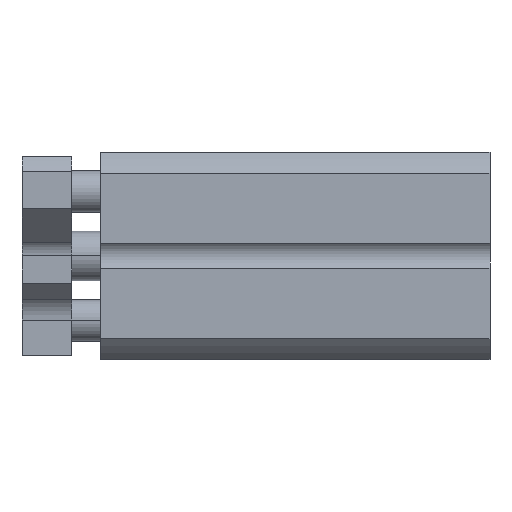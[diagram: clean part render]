
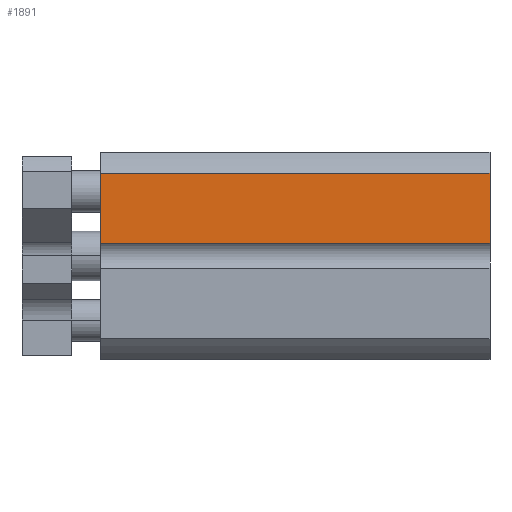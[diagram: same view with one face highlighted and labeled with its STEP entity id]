
A CAD part, top view. The second image highlights one B-rep face of the part: STEP entity #1891.
In plain terms, the highlighted planar face has unit normal (0, 0, 1).
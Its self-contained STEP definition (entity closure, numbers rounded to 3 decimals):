
#238 = EDGE_CURVE ( 'NONE', #561, #2212, #3572, .T. ) ;
#260 = LINE ( 'NONE', #1137, #2468 ) ;
#295 = CARTESIAN_POINT ( 'NONE',  ( 47., 9.987, 12.5 ) ) ;
#338 = ORIENTED_EDGE ( 'NONE', *, *, #2482, .T. ) ;
#414 = EDGE_CURVE ( 'NONE', #1948, #1223, #260, .T. ) ;
#518 = EDGE_LOOP ( 'NONE', ( #3326, #615, #3395, #338 ) ) ;
#545 = CARTESIAN_POINT ( 'NONE',  ( 47., 1.5, 12.5 ) ) ;
#561 = VERTEX_POINT ( 'NONE', #1872 ) ;
#593 = FACE_OUTER_BOUND ( 'NONE', #518, .T. ) ;
#615 = ORIENTED_EDGE ( 'NONE', *, *, #2145, .F. ) ;
#753 = DIRECTION ( 'NONE',  ( -1., 0., 0. ) ) ;
#912 = DIRECTION ( 'NONE',  ( 0., -1., 0. ) ) ;
#995 = AXIS2_PLACEMENT_3D ( 'NONE', #295, #3584, #912 ) ;
#999 = VECTOR ( 'NONE', #2672, 1000. ) ;
#1057 = LINE ( 'NONE', #3453, #1323 ) ;
#1137 = CARTESIAN_POINT ( 'NONE',  ( 47., 9.987, 12.5 ) ) ;
#1140 = CARTESIAN_POINT ( 'NONE',  ( 0., 9.987, 12.5 ) ) ;
#1223 = VERTEX_POINT ( 'NONE', #545 ) ;
#1323 = VECTOR ( 'NONE', #753, 1000. ) ;
#1395 = CARTESIAN_POINT ( 'NONE',  ( 0., 1.5, 12.5 ) ) ;
#1780 = DIRECTION ( 'NONE',  ( 0., -1., 0. ) ) ;
#1817 = PLANE ( 'NONE',  #995 ) ;
#1872 = CARTESIAN_POINT ( 'NONE',  ( 0., 9.987, 12.5 ) ) ;
#1891 = ADVANCED_FACE ( 'NONE', ( #593 ), #1817, .F. ) ;
#1948 = VERTEX_POINT ( 'NONE', #2201 ) ;
#2054 = LINE ( 'NONE', #3262, #2865 ) ;
#2145 = EDGE_CURVE ( 'NONE', #1223, #2212, #1057, .T. ) ;
#2173 = DIRECTION ( 'NONE',  ( -1., 0., 0. ) ) ;
#2201 = CARTESIAN_POINT ( 'NONE',  ( 47., 9.987, 12.5 ) ) ;
#2212 = VERTEX_POINT ( 'NONE', #1395 ) ;
#2468 = VECTOR ( 'NONE', #1780, 1000. ) ;
#2482 = EDGE_CURVE ( 'NONE', #1948, #561, #2054, .T. ) ;
#2672 = DIRECTION ( 'NONE',  ( 0., -1., 0. ) ) ;
#2865 = VECTOR ( 'NONE', #2173, 1000. ) ;
#3262 = CARTESIAN_POINT ( 'NONE',  ( 47., 9.987, 12.5 ) ) ;
#3326 = ORIENTED_EDGE ( 'NONE', *, *, #238, .T. ) ;
#3395 = ORIENTED_EDGE ( 'NONE', *, *, #414, .F. ) ;
#3453 = CARTESIAN_POINT ( 'NONE',  ( 47., 1.5, 12.5 ) ) ;
#3572 = LINE ( 'NONE', #1140, #999 ) ;
#3584 = DIRECTION ( 'NONE',  ( 0., 0., -1. ) ) ;
